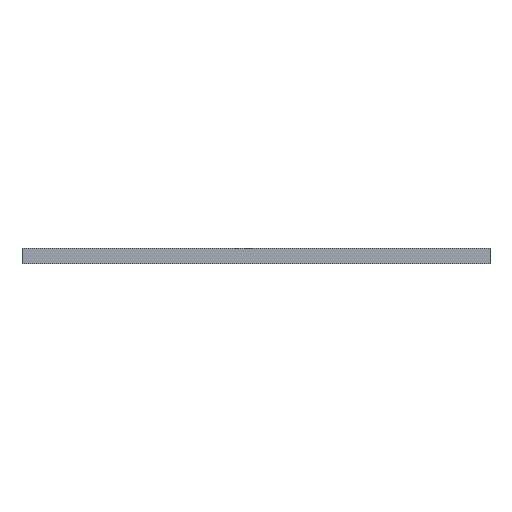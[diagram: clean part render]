
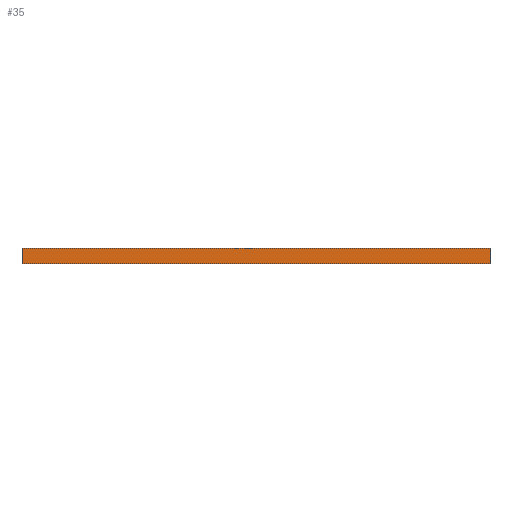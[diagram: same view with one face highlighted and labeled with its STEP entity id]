
A CAD part, front view. The second image highlights one B-rep face of the part: STEP entity #35.
In plain terms, the highlighted planar face has unit normal (0, -1, 0).
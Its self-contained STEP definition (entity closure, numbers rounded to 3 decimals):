
#35 = ADVANCED_FACE('',(#36),#70,.T.);
#36 = FACE_BOUND('',#37,.T.);
#37 = EDGE_LOOP('',(#38,#48,#56,#64));
#38 = ORIENTED_EDGE('',*,*,#39,.T.);
#39 = EDGE_CURVE('',#40,#42,#44,.T.);
#40 = VERTEX_POINT('',#41);
#41 = CARTESIAN_POINT('',(46.,-65.,0.));
#42 = VERTEX_POINT('',#43);
#43 = CARTESIAN_POINT('',(46.,-65.,1.51));
#44 = LINE('',#45,#46);
#45 = CARTESIAN_POINT('',(46.,-65.,0.));
#46 = VECTOR('',#47,1.);
#47 = DIRECTION('',(0.,0.,1.));
#48 = ORIENTED_EDGE('',*,*,#49,.T.);
#49 = EDGE_CURVE('',#42,#50,#52,.T.);
#50 = VERTEX_POINT('',#51);
#51 = CARTESIAN_POINT('',(0.,-65.,1.51));
#52 = LINE('',#53,#54);
#53 = CARTESIAN_POINT('',(46.,-65.,1.51));
#54 = VECTOR('',#55,1.);
#55 = DIRECTION('',(-1.,0.,0.));
#56 = ORIENTED_EDGE('',*,*,#57,.F.);
#57 = EDGE_CURVE('',#58,#50,#60,.T.);
#58 = VERTEX_POINT('',#59);
#59 = CARTESIAN_POINT('',(0.,-65.,0.));
#60 = LINE('',#61,#62);
#61 = CARTESIAN_POINT('',(0.,-65.,0.));
#62 = VECTOR('',#63,1.);
#63 = DIRECTION('',(0.,0.,1.));
#64 = ORIENTED_EDGE('',*,*,#65,.F.);
#65 = EDGE_CURVE('',#40,#58,#66,.T.);
#66 = LINE('',#67,#68);
#67 = CARTESIAN_POINT('',(46.,-65.,0.));
#68 = VECTOR('',#69,1.);
#69 = DIRECTION('',(-1.,0.,0.));
#70 = PLANE('',#71);
#71 = AXIS2_PLACEMENT_3D('',#72,#73,#74);
#72 = CARTESIAN_POINT('',(46.,-65.,0.));
#73 = DIRECTION('',(0.,-1.,0.));
#74 = DIRECTION('',(-1.,0.,0.));
